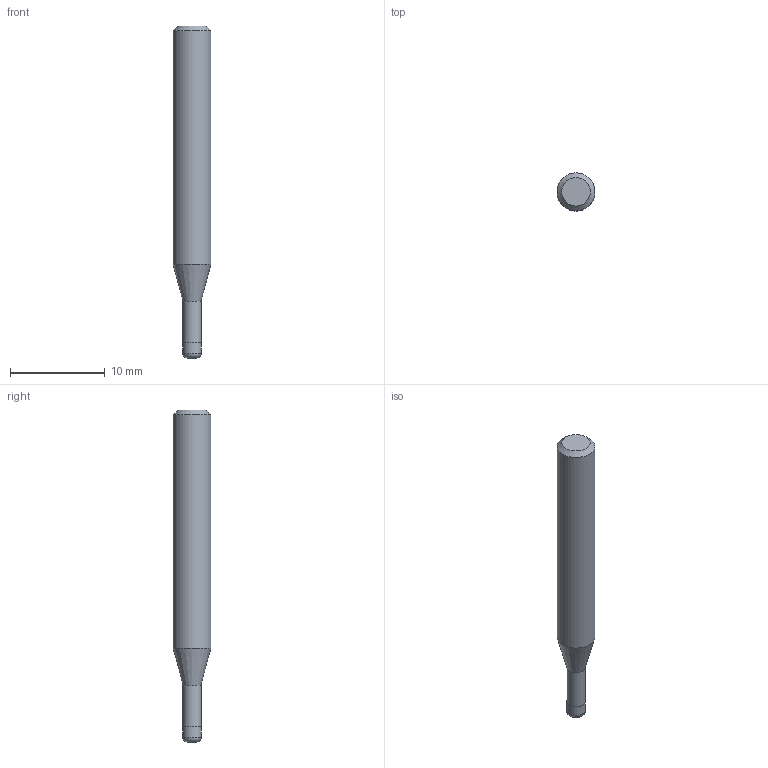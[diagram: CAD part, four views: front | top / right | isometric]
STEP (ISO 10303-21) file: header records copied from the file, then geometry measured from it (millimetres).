
FILE_DESCRIPTION((''),'2;1');
FILE_NAME('C:\Users\nsx150\AppData\Local\Temp\Mastercam 2021\80JYEHYUML\TEMP.step','2022-03-29T14:37:33',(''),(''),'STEP Write','Mastercam 2021 ... CNC Software, Inc.','');
FILE_SCHEMA(('AUTOMOTIVE_DESIGN'));
Length unit declared in the file: millimetre
Products named in the file (1): None
Bounding box: 4 x 4 x 35 mm (x, y, z)
Volume: 359.2 mm3; surface area: 405.6 mm2
Topology: 2 solids, 2 shells, 10 faces, 14 edges, 8 vertices
Faces by surface type: plane 4, cylinder 3, cone 2, torus 1
Full cylindrical faces by diameter (mm): 1.91 x1, 2 x1, 4 x1
Entity records: 232 total; most frequent: DIRECTION 40, CARTESIAN_POINT 28, AXIS2_PLACEMENT_3D 20, ORIENTED_EDGE 16, EDGE_LOOP 16, STYLED_ITEM 13, ADVANCED_FACE 10, FACE_BOUND 10
